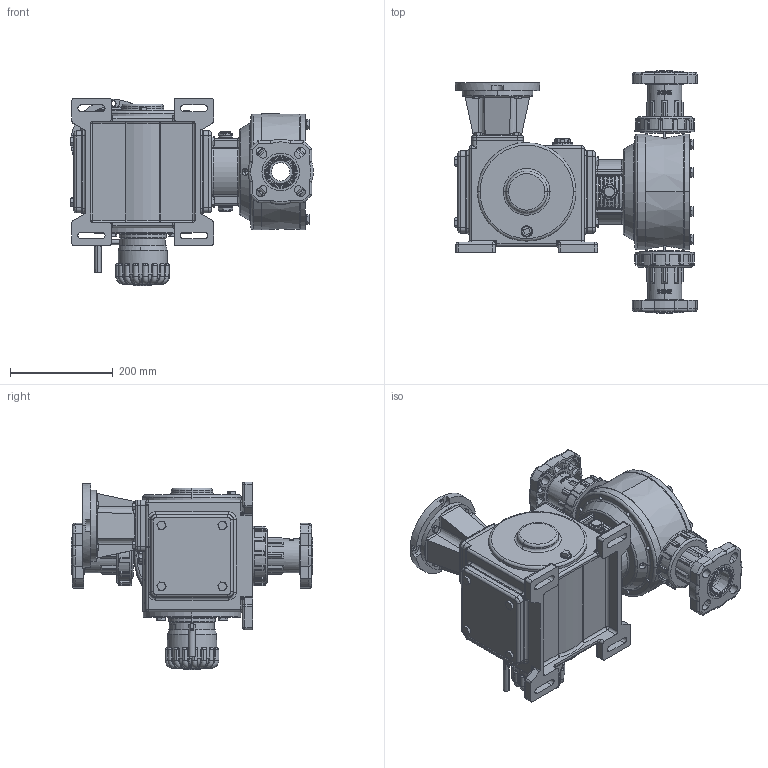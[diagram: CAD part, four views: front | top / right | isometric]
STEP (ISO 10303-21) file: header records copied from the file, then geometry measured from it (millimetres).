
FILE_DESCRIPTION (( 'STEP AP203' ), '1' );
FILE_NAME ('DM7JYFH.STEP', '2025-03-20T19:05:57', ( '' ), ( '' ), 'SwSTEP 2.0', 'SolidWorks 2023', '' );
FILE_SCHEMA (( 'CONFIG_CONTROL_DESIGN' ));
Products named in the file (1): DM7JYFH
Bounding box: 472.9 x 471.6 x 366.39 mm (x, y, z)
Surface area: 984061.6 mm2 (no closed solid volume)
Topology: 0 solids, 202 shells, 2541 faces, 10873 edges, 8289 vertices
Faces by surface type: cylinder 914, plane 751, cone 305, torus 263, bspline 256, sphere 52
Entity records: 146484 total; most frequent: CARTESIAN_POINT 63658, ORIENTED_EDGE 15814, DIRECTION 15718, EDGE_CURVE 10754, VERTEX_POINT 8289, AXIS2_PLACEMENT_3D 5327, LINE 5064, VECTOR 5064
